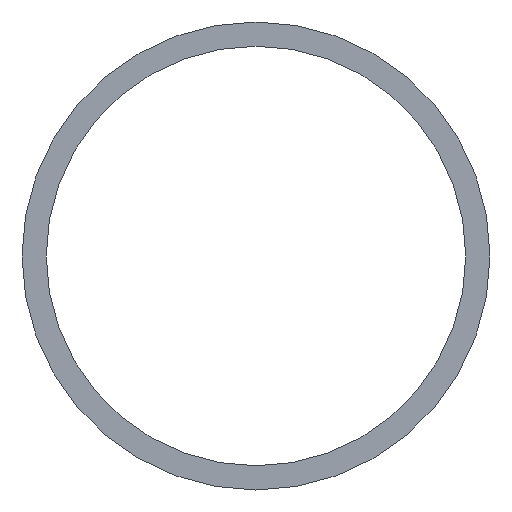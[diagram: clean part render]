
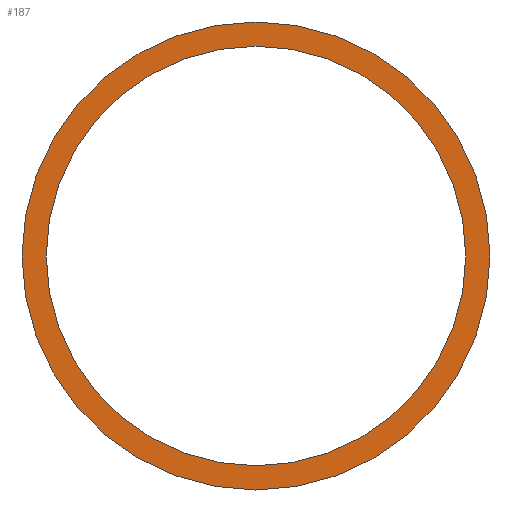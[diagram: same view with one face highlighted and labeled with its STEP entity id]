
A CAD part, left-side view. The second image highlights one B-rep face of the part: STEP entity #187.
In plain terms, the highlighted planar face has unit normal (-1, 0, 0).
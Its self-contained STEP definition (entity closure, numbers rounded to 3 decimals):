
#2 = EDGE_CURVE ( 'NONE', #157, #3, #87, .T. ) ;
#3 = VERTEX_POINT ( 'NONE', #7 ) ;
#7 = CARTESIAN_POINT ( 'NONE',  ( 5380., 3750.85, 6275.85 ) ) ;
#9 = DIRECTION ( 'NONE',  ( -1., 0., 0. ) ) ;
#12 = DIRECTION ( 'NONE',  ( 0., -1., 0. ) ) ;
#13 = CIRCLE ( 'NONE', #201, 21.65 ) ;
#20 = ORIENTED_EDGE ( 'NONE', *, *, #195, .T. ) ;
#25 = DIRECTION ( 'NONE',  ( 0., -1., 0. ) ) ;
#27 = DIRECTION ( 'NONE',  ( -1., 0., 0. ) ) ;
#33 = EDGE_CURVE ( 'NONE', #171, #197, #13, .T. ) ;
#35 = AXIS2_PLACEMENT_3D ( 'NONE', #51, #9, #180 ) ;
#44 = AXIS2_PLACEMENT_3D ( 'NONE', #45, #92, #25 ) ;
#45 = CARTESIAN_POINT ( 'NONE',  ( 5380., 3775., 6275.85 ) ) ;
#50 = AXIS2_PLACEMENT_3D ( 'NONE', #129, #178, #12 ) ;
#51 = CARTESIAN_POINT ( 'NONE',  ( 5380., 3775., 6275.85 ) ) ;
#62 = CARTESIAN_POINT ( 'NONE',  ( 5380., 3775., 6275.85 ) ) ;
#65 = PLANE ( 'NONE',  #75 ) ;
#69 = ORIENTED_EDGE ( 'NONE', *, *, #156, .F. ) ;
#70 = CIRCLE ( 'NONE', #50, 21.65 ) ;
#73 = DIRECTION ( 'NONE',  ( -1., 0., 0. ) ) ;
#74 = EDGE_LOOP ( 'NONE', ( #125, #20 ) ) ;
#75 = AXIS2_PLACEMENT_3D ( 'NONE', #62, #27, #110 ) ;
#78 = CARTESIAN_POINT ( 'NONE',  ( 5380., 3753.35, 6275.85 ) ) ;
#87 = CIRCLE ( 'NONE', #44, 24.15 ) ;
#92 = DIRECTION ( 'NONE',  ( -1., 0., 0. ) ) ;
#99 = CIRCLE ( 'NONE', #35, 24.15 ) ;
#101 = CARTESIAN_POINT ( 'NONE',  ( 5380., 3775., 6275.85 ) ) ;
#107 = FACE_BOUND ( 'NONE', #175, .T. ) ;
#110 = DIRECTION ( 'NONE',  ( 0., -1., 0. ) ) ;
#125 = ORIENTED_EDGE ( 'NONE', *, *, #2, .T. ) ;
#129 = CARTESIAN_POINT ( 'NONE',  ( 5380., 3775., 6275.85 ) ) ;
#139 = DIRECTION ( 'NONE',  ( 0., -1., 0. ) ) ;
#140 = ORIENTED_EDGE ( 'NONE', *, *, #33, .F. ) ;
#156 = EDGE_CURVE ( 'NONE', #197, #171, #70, .T. ) ;
#157 = VERTEX_POINT ( 'NONE', #182 ) ;
#171 = VERTEX_POINT ( 'NONE', #78 ) ;
#175 = EDGE_LOOP ( 'NONE', ( #69, #140 ) ) ;
#178 = DIRECTION ( 'NONE',  ( -1., 0., 0. ) ) ;
#180 = DIRECTION ( 'NONE',  ( 0., -1., 0. ) ) ;
#182 = CARTESIAN_POINT ( 'NONE',  ( 5380., 3799.15, 6275.85 ) ) ;
#187 = ADVANCED_FACE ( 'NONE', ( #206, #107 ), #65, .T. ) ;
#195 = EDGE_CURVE ( 'NONE', #3, #157, #99, .T. ) ;
#197 = VERTEX_POINT ( 'NONE', #207 ) ;
#201 = AXIS2_PLACEMENT_3D ( 'NONE', #101, #73, #139 ) ;
#206 = FACE_OUTER_BOUND ( 'NONE', #74, .T. ) ;
#207 = CARTESIAN_POINT ( 'NONE',  ( 5380., 3796.65, 6275.85 ) ) ;
